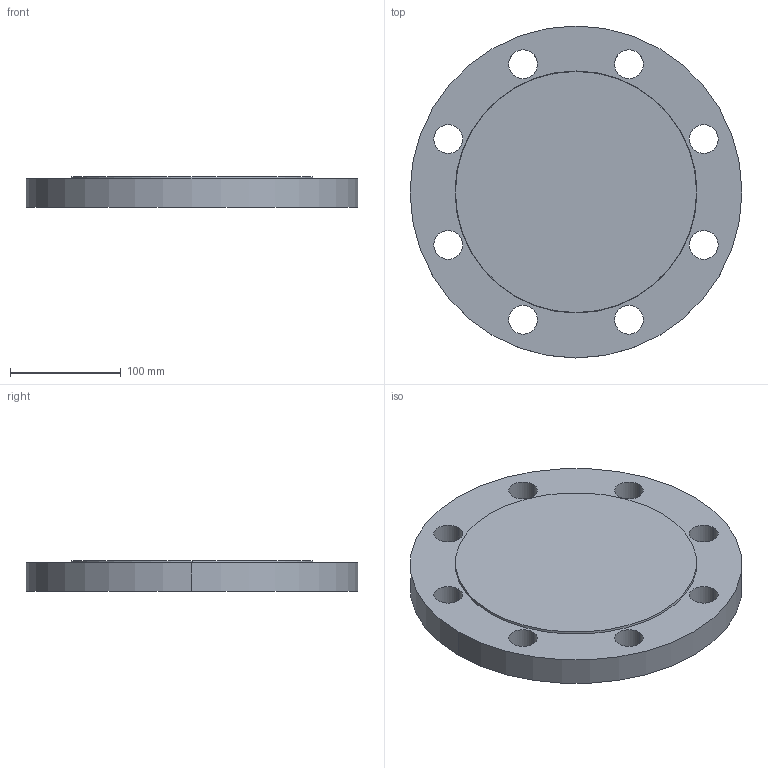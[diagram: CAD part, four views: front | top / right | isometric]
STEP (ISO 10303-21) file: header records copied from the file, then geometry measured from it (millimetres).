
FILE_DESCRIPTION (( 'STEP AP214' ), '1' );
FILE_NAME ('PN40 DN150 Type 05 - Type B Face.STEP', '2019-01-05T00:21:48', ( '' ), ( '' ), 'SwSTEP 2.0', 'SolidWorks 2019', '' );
FILE_SCHEMA (( 'AUTOMOTIVE_DESIGN' ));
Length unit declared in the file: millimetre
Products named in the file (1): PN40 DN150 Type 05 - Type B Face
Bounding box: 300 x 300 x 28 mm (x, y, z)
Volume: 1802290.7 mm3; surface area: 175522.2 mm2
Topology: 1 solids, 1 shells, 23 faces, 60 edges, 40 vertices
Faces by surface type: cylinder 18, plane 3, cone 2
Entity records: 800 total; most frequent: DIRECTION 148, CARTESIAN_POINT 124, ORIENTED_EDGE 120, AXIS2_PLACEMENT_3D 64, EDGE_CURVE 60, VERTEX_POINT 40, EDGE_LOOP 40, CIRCLE 40
